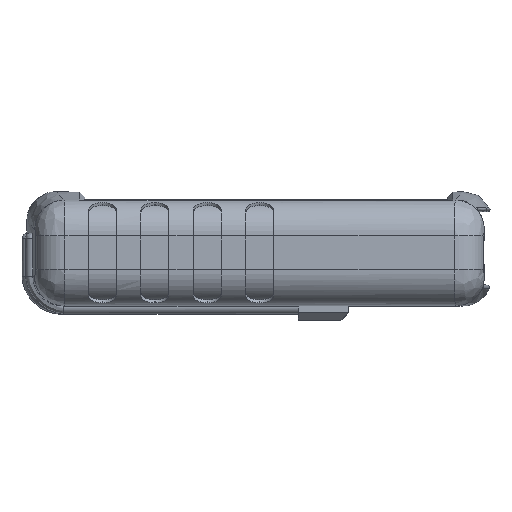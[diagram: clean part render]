
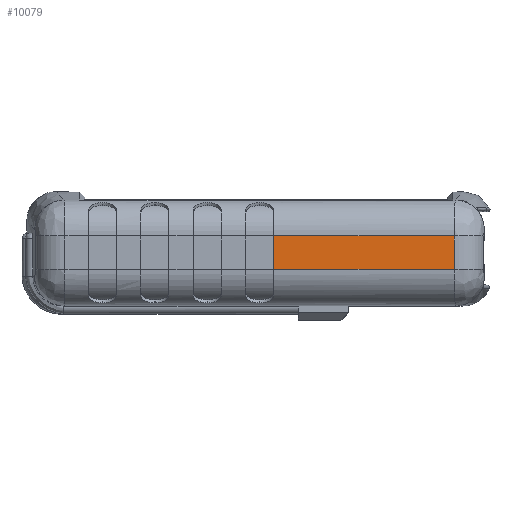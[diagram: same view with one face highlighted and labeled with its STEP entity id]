
A CAD part, top view. The second image highlights one B-rep face of the part: STEP entity #10079.
In plain terms, the highlighted planar face has unit normal (0, 0, 1).
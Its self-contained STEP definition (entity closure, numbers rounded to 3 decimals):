
#545 = FACE_OUTER_BOUND ( 'NONE', #20009, .T. ) ;
#1195 = VERTEX_POINT ( 'NONE', #6380 ) ;
#3610 = CARTESIAN_POINT ( 'NONE',  ( -71.12, -6.413, 42.494 ) ) ;
#3960 = LINE ( 'NONE', #21245, #16228 ) ;
#4253 = VECTOR ( 'NONE', #20208, 1000. ) ;
#4954 = VERTEX_POINT ( 'NONE', #18126 ) ;
#5480 = EDGE_CURVE ( 'NONE', #21415, #13379, #17638, .T. ) ;
#6380 = CARTESIAN_POINT ( 'NONE',  ( 59.01, 3.694, 42.494 ) ) ;
#7528 = LINE ( 'NONE', #13741, #19802 ) ;
#10079 = ADVANCED_FACE ( 'NONE', ( #545 ), #29388, .F. ) ;
#11027 = CARTESIAN_POINT ( 'NONE',  ( 4.255, -6.413, 42.494 ) ) ;
#11394 = DIRECTION ( 'NONE',  ( -1., 0., 0. ) ) ;
#11557 = AXIS2_PLACEMENT_3D ( 'NONE', #14684, #31873, #17155 ) ;
#11676 = EDGE_CURVE ( 'NONE', #13379, #1195, #30387, .T. ) ;
#13379 = VERTEX_POINT ( 'NONE', #17051 ) ;
#13741 = CARTESIAN_POINT ( 'NONE',  ( 4.255, 3.694, 42.494 ) ) ;
#14684 = CARTESIAN_POINT ( 'NONE',  ( -71.12, 17.462, 42.494 ) ) ;
#16180 = DIRECTION ( 'NONE',  ( 0., -1., 0. ) ) ;
#16228 = VECTOR ( 'NONE', #11394, 1000. ) ;
#17051 = CARTESIAN_POINT ( 'NONE',  ( 59.01, -6.413, 42.494 ) ) ;
#17155 = DIRECTION ( 'NONE',  ( -1., 0., 0. ) ) ;
#17638 = LINE ( 'NONE', #3610, #29182 ) ;
#17749 = CARTESIAN_POINT ( 'NONE',  ( 59.01, 12.89, 42.494 ) ) ;
#18126 = CARTESIAN_POINT ( 'NONE',  ( 4.254, 3.694, 42.494 ) ) ;
#18408 = ORIENTED_EDGE ( 'NONE', *, *, #21453, .T. ) ;
#19802 = VECTOR ( 'NONE', #16180, 1000. ) ;
#20009 = EDGE_LOOP ( 'NONE', ( #18408, #24170, #21244, #29238 ) ) ;
#20208 = DIRECTION ( 'NONE',  ( 0., 1., 0. ) ) ;
#21244 = ORIENTED_EDGE ( 'NONE', *, *, #11676, .T. ) ;
#21245 = CARTESIAN_POINT ( 'NONE',  ( -71.12, 3.694, 42.494 ) ) ;
#21415 = VERTEX_POINT ( 'NONE', #11027 ) ;
#21453 = EDGE_CURVE ( 'NONE', #4954, #21415, #7528, .T. ) ;
#23902 = EDGE_CURVE ( 'NONE', #1195, #4954, #3960, .T. ) ;
#24170 = ORIENTED_EDGE ( 'NONE', *, *, #5480, .T. ) ;
#29182 = VECTOR ( 'NONE', #30672, 1000. ) ;
#29238 = ORIENTED_EDGE ( 'NONE', *, *, #23902, .T. ) ;
#29388 = PLANE ( 'NONE',  #11557 ) ;
#30387 = LINE ( 'NONE', #17749, #4253 ) ;
#30672 = DIRECTION ( 'NONE',  ( 1., 0., 0. ) ) ;
#31873 = DIRECTION ( 'NONE',  ( 0., 0., -1. ) ) ;
